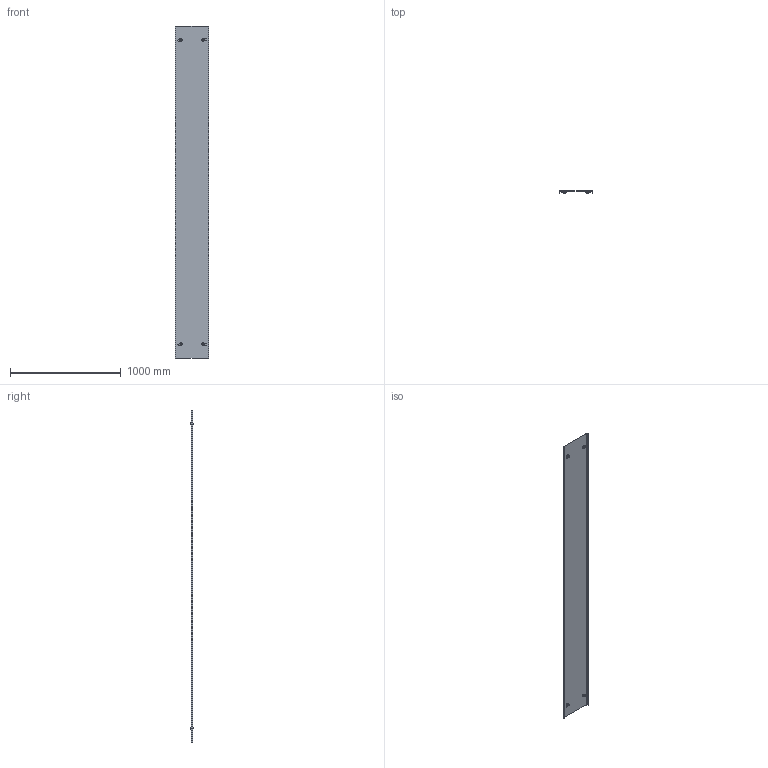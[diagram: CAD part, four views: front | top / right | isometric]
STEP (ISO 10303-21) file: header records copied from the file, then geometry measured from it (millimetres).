
FILE_DESCRIPTION (( 'STEP AP203' ), '1' );
FILE_NAME ('Ñáîðêà1.STEP', '2016-01-18T09:01:58', ( '' ), ( '' ), 'SwSTEP 2.0', 'SolidWorks 2015', '' );
FILE_SCHEMA (( 'CONFIG_CONTROL_DESIGN' ));
Length unit declared in the file: millimetre
Products named in the file (8): 栖闉罻1; 瀁僿鳻; 鐓膲僗闉; Hex Nut 5929_gost1_ƒ ©ª  M16 ƒŽ‘’ 5929-70; êðûøêà  ñ ôèêñàòîðîì 1,5_300; hex flange bolt_din_DIN 6921 - M5 x 10 x 10-C; âòóëêà âíóòðÿíÿÿ; âòóëêà íàðóæíÿÿ
Assembly tree (10 placements, depth 3):
  栖闉罻1
    êðûøêà  ñ ôèêñàòîðîì 1,5_300
    鐓膲僗闉  x4
      âòóëêà íàðóæíÿÿ
      âòóëêà âíóòðÿíÿÿ
      hex flange bolt_din_DIN 6921 - M5 x 10 x 10-C
      Hex Nut 5929_gost1_ƒ ©ª  M16 ƒŽ‘’ 5929-70
      瀁僿鳻
Bounding box: 303 x 25 x 3000 mm (x, y, z)
Volume: 1514088.3 mm3; surface area: 2018099.2 mm2
Topology: 21 solids, 21 shells, 558 faces, 1248 edges, 768 vertices
Faces by surface type: plane 318, cylinder 144, cone 64, bspline 24, torus 8
Entity records: 6412 total; most frequent: CARTESIAN_POINT 1271, DIRECTION 906, ORIENTED_EDGE 852, EDGE_CURVE 426, AXIS2_PLACEMENT_3D 333, VERTEX_POINT 264, VECTOR 240, LINE 240
